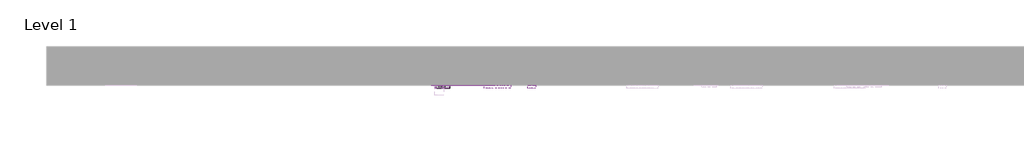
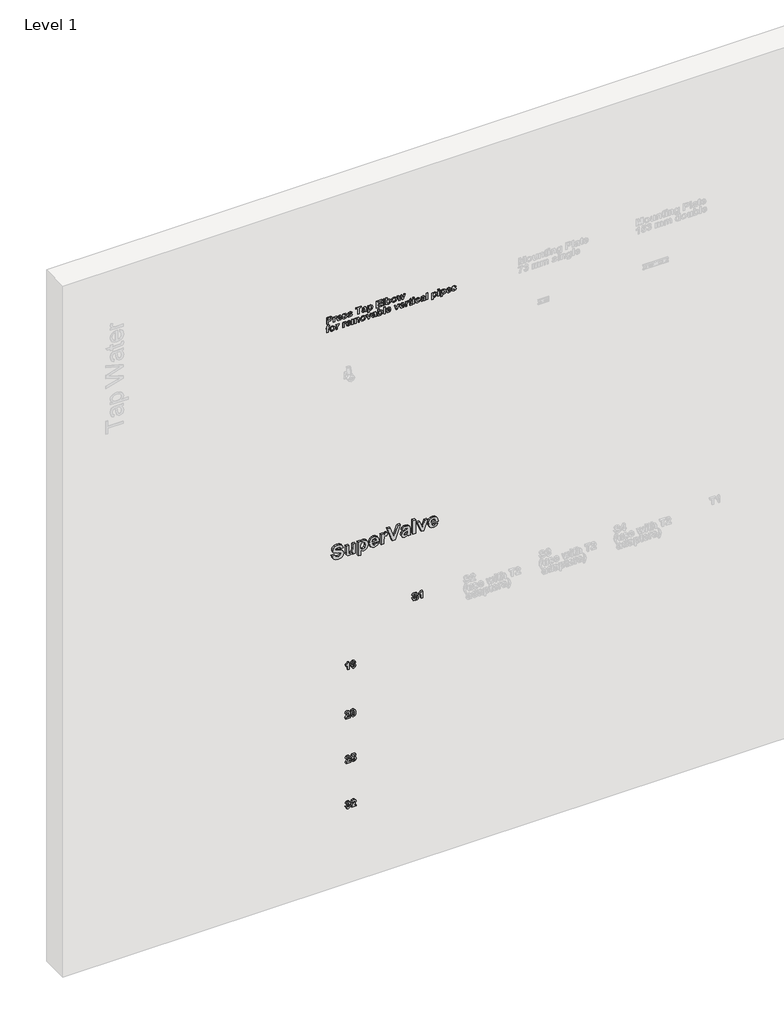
# One storey, part 12 of 58: 7 proxies.
"""IFC4 building model written with IfcOpenShell, lengths in millimetres."""

import ifcopenshell
import ifcopenshell.guid

model = None  # the IFC model being written
_history = None  # IfcOwnerHistory: only IFC2X3 demands one
_inside = {}  # id of a spatial element -> (the spatial element, [elements in it])
_under = {}  # id of a project, library or spatial element -> (it, [spatial elements below it])
_declared = {}  # id of a project -> (the project, [libraries it declares])
_typed = {}  # id of a type object -> (the type object, [elements of that type])
_made_of = {}  # id of a material, layer set ... -> (it, [elements and type objects made of it])


def new_model(schema):
    """Start an empty IFC model of exactly this schema.

    Asked for "IFC4X3", IfcOpenShell would pick the latest addendum, in which some entities
    have other attributes; the version numbers below select the first issue.
    IFC2X3 requires an IfcOwnerHistory on every rooted entity: one is made here for all.
    """
    global model, _history
    if schema == "IFC4X3":
        model = ifcopenshell.file(schema_version=(4, 3, 0, 0))
    else:
        model = ifcopenshell.file(schema=schema)
    _inside.clear()
    _under.clear()
    _declared.clear()
    _typed.clear()
    _made_of.clear()
    _history = None
    if model.schema == "IFC2X3":
        org = make("IfcOrganization", Name="unknown")
        user = make(
            "IfcPersonAndOrganization",
            ThePerson=make("IfcPerson", FamilyName="unknown"),
            TheOrganization=org,
        )
        app = make(
            "IfcApplication",
            ApplicationDeveloper=org,
            Version="unknown",
            ApplicationFullName="unknown",
            ApplicationIdentifier="unknown",
        )
        _history = make(
            "IfcOwnerHistory",
            OwningUser=user,
            OwningApplication=app,
            ChangeAction="ADDED",
            CreationDate=0,
        )
    return model


def make(cls, **values):
    """One entity of the class cls with the attributes given. An attribute that is None is left unset."""
    return model.create_entity(
        cls, **{name: value for name, value in values.items() if value is not None}
    )


def rooted(cls, **values):
    """An entity with a GlobalId (a new one), such as an element, a storey or a relation."""
    return make(cls, GlobalId=ifcopenshell.guid.new(), OwnerHistory=_history, **values)


def si_unit(unit_type, name, prefix=None):
    """IfcSIUnit, for example si_unit("LENGTHUNIT", "METRE", prefix="MILLI")."""
    return make("IfcSIUnit", UnitType=unit_type, Prefix=prefix, Name=name)


def assignment(units):
    """IfcUnitAssignment: the units of a project."""
    return None if units is None else make("IfcUnitAssignment", Units=units)


def point(xyz):
    """IfcCartesianPoint."""
    return None if xyz is None else make("IfcCartesianPoint", Coordinates=xyz)


def direction(xyz):
    """IfcDirection."""
    return None if xyz is None else make("IfcDirection", DirectionRatios=xyz)


def frame(location, z_axis=None, x_axis=None):
    """IfcAxis2Placement3D, a coordinate frame: its origin and axes. An axis left out is left unset."""
    return make(
        "IfcAxis2Placement3D",
        Location=point(location),
        Axis=direction(z_axis),
        RefDirection=direction(x_axis),
    )


def origin():
    """The frame at (0, 0, 0) with its axes left unset."""
    return frame((0.0, 0.0, 0.0))


def place(relative_to, where):
    """IfcLocalPlacement: puts the frame where relative to a parent placement (None: the world)."""
    return make(
        "IfcLocalPlacement", PlacementRelTo=relative_to, RelativePlacement=where
    )


def context(
    kind, dimensions, precision=None, world=None, true_north=None, identifier=None
):
    """IfcGeometricRepresentationContext, for example the 3D "Model" context."""
    return make(
        "IfcGeometricRepresentationContext",
        ContextIdentifier=identifier,
        ContextType=kind,
        CoordinateSpaceDimension=dimensions,
        Precision=precision,
        WorldCoordinateSystem=world,
        TrueNorth=true_north,
    )


def project(units=None, contexts=None):
    """IfcProject with its units and contexts."""
    return rooted(
        "IfcProject",
        Name="project",
        RepresentationContexts=contexts,
        UnitsInContext=assignment(units),
    )


def spatial(cls, under=None, at=None, **own):
    """A site, building, storey or space (cls), placed at a placement, below another one or the project."""
    s = rooted(cls, ObjectPlacement=at, **own)
    if under is not None:
        _under.setdefault(under.id(), (under, []))[1].append(s)
    return s


def polyline(points):
    """IfcPolyline through the points."""
    return make("IfcPolyline", Points=[point(p) for p in points])


def outline(outer, holes=None, kind="AREA"):
    """IfcArbitraryClosedProfileDef: a profile drawn as a closed curve; with holes, ...WithVoids."""
    if holes is None:
        return make("IfcArbitraryClosedProfileDef", ProfileType=kind, OuterCurve=outer)
    return make(
        "IfcArbitraryProfileDefWithVoids",
        ProfileType=kind,
        OuterCurve=outer,
        InnerCurves=holes,
    )


def extrude(swept, where, along, depth):
    """IfcExtrudedAreaSolid: the profile swept, set in the frame where, extruded along a direction by depth."""
    return make(
        "IfcExtrudedAreaSolid",
        SweptArea=swept,
        Position=where,
        ExtrudedDirection=direction(along),
        Depth=depth,
    )


def shape(context_of_items, identifier, shape_type, items):
    """IfcShapeRepresentation: the items that make up one representation, for example the "Body"."""
    return make(
        "IfcShapeRepresentation",
        ContextOfItems=context_of_items,
        RepresentationIdentifier=identifier,
        RepresentationType=shape_type,
        Items=items,
    )


def made_of(thing, what):
    """Note that an element or type object is made of a material, layer set ...; save() writes the relation."""
    if what is not None:
        _made_of.setdefault(what.id(), (what, []))[1].append(thing)
    return thing


def element(
    cls,
    number,
    at=None,
    inside=None,
    cuts=None,
    type_object=None,
    material=None,
    context=None,
    identifier="Body",
    shape_type=None,
    held_by="IfcProductDefinitionShape",
    body=None,
    shapes=None,
    **own,
):
    """One element of the class cls, such as IfcWall. Its Tag is "e" and its number.

    at: its placement. inside: the storey or other place that contains it. cuts: it is an
    opening in that element (IfcRelVoidsElement). A single representation is given by context,
    identifier, shape_type and body (its items); several are given by shapes. held_by: the class
    of the entity that holds the representations. save() writes the other relations.
    """
    e = rooted(cls, Tag="e%d" % number, ObjectPlacement=at, **own)
    if body is not None:
        shapes = [shape(context, identifier, shape_type, body)]
    if shapes is not None:
        e.Representation = make(held_by, Representations=shapes)
    if inside is not None:
        _inside.setdefault(inside.id(), (inside, []))[1].append(e)
    if cuts is not None:
        rooted(
            "IfcRelVoidsElement", RelatingBuildingElement=cuts, RelatedOpeningElement=e
        )
    if type_object is not None:
        _typed.setdefault(type_object.id(), (type_object, []))[1].append(e)
    return made_of(e, material)


def aggregate(whole, parts):
    """IfcRelAggregates: a whole, such as a stair, and the parts it consists of."""
    return rooted("IfcRelAggregates", RelatingObject=whole, RelatedObjects=parts)


def save(model, path):
    """Write the relations noted so far, then the file.

    IfcRelAggregates (storeys below a building ...), IfcRelContainedInSpatialStructure (elements
    in a storey), IfcRelDefinesByType, IfcRelAssociatesMaterial and IfcRelDeclares: one each for
    every whole, place, type object, material and project.
    """
    for whole, parts in _under.values():
        aggregate(whole, parts)
    for where, things in _inside.values():
        rooted(
            "IfcRelContainedInSpatialStructure",
            RelatedElements=things,
            RelatingStructure=where,
        )
    for kind, things in _typed.values():
        rooted("IfcRelDefinesByType", RelatedObjects=things, RelatingType=kind)
    for what, things in _made_of.values():
        rooted("IfcRelAssociatesMaterial", RelatedObjects=things, RelatingMaterial=what)
    for by, libraries in _declared.values():
        rooted("IfcRelDeclares", RelatingContext=by, RelatedDefinitions=libraries)
    model.write(path)


model = new_model("IFC4")

# Units and contexts
model_context = context("Model", 3, world=origin())
ifc_project = project(units=[si_unit("LENGTHUNIT", "METRE", prefix="MILLI")], contexts=[model_context])

# Site, building, storey
site = spatial("IfcSite", under=ifc_project)
building = spatial("IfcBuilding", under=site)
storey = spatial("IfcBuildingStorey", under=building, Name="Level 1", Elevation=27.3876384)

# Proxies
placement = place(None, origin())
element("IfcBuildingElementProxy", 1, Name="100 mm Arial 2", ObjectType="100 mm Arial 2", at=placement, inside=storey, context=model_context, shape_type="SweptSolid", body=[
    extrude(outline(polyline([(2535.90515, 11527.6399588), (2520.5550791, 11531.7202373), (2509.3738509, 11539.9630325), (2502.5512457, 11552.5264946), (2500.277044, 11569.568774), (2503.9714356, 11591.6718639), (2515.2570431, 11605.3866604), (2531.5528529, 11610.2323865), (2547.6715344, 11606.1331299), (2557.9576318, 11594.7969144), (2565.1439827, 11572.4407839), (2571.7862965, 11553.3994844), (2577.8845732, 11550.31239), (2584.1093701, 11553.703133), (2587.7278497, 11568.2276592), (2584.3244546, 11581.7020672), (2573.1527154, 11587.5599554), (2573.1527154, 11606.9934677), (2586.4057129, 11604.213185), (2596.7107883, 11596.8338906), (2603.3341241, 11584.7859986), (2605.5419027, 11567.9999227), (2601.9993353, 11547.9844171), (2591.7005859, 11535.2817827), (2577.1760597, 11530.8788776), (2566.0232986, 11533.2764366), (2556.7050812, 11540.4691135), (2546.7605885, 11564.2043148), (2542.4335956, 11581.0568138), (2538.0686465, 11588.6353776), (2531.9830218, 11590.7988741), (2522.2536136, 11585.5862393), (2518.091097, 11570.074855), (2522.7976508, 11554.664687), (2537.5246094, 11547.0734712), (2535.90515, 11527.6399588)])), frame((0.0, 4529.8703674, 0.0), z_axis=(0.0, 1.0, 0.0), x_axis=(0.0, 0.0, 1.0)), (0.0, 0.0, 1.0), 15.0),
    extrude(outline(polyline([(2501.8965033, 11673.3913017), (2501.8965033, 11692.8248141), (2576.3916341, 11692.8248141), (2576.3916341, 11673.3913017), (2544.7868724, 11673.3913017), (2524.5562824, 11671.9616227), (2517.635624, 11666.6477717), (2514.8521782, 11657.8546134), (2516.9397626, 11650.7568267), (2522.5825663, 11646.9106107), (2541.9528186, 11645.8604925), (2576.3916341, 11645.8604925), (2576.3916341, 11626.4269801), (2529.3007923, 11626.4269801), (2512.815202, 11628.9573854), (2503.5665708, 11637.1558984), (2500.277044, 11649.934445), (2503.6298309, 11663.2317246), (2512.827854, 11673.3913017), (2501.8965033, 11673.3913017)])), frame((0.0, 4529.8703674, 0.0), z_axis=(0.0, 1.0, 0.0), x_axis=(0.0, 0.0, 1.0)), (0.0, 0.0, 1.0), 15.0),
    extrude(outline(polyline([(2576.3916341, 11712.2583265), (2474.3656941, 11712.2583265), (2474.3656941, 11731.6918388), (2510.9300501, 11731.6918388), (2502.680929, 11742.0158923), (2500.277044, 11752.9725471), (2502.8580573, 11764.7294425), (2510.6010974, 11774.59486), (2523.0064092, 11781.2846189), (2539.5742376, 11783.5145385), (2555.7024081, 11781.354205), (2567.8515164, 11774.8732046), (2575.4711992, 11765.2987837), (2578.0110935, 11753.8581889), (2574.5950464, 11740.927818), (2565.6627158, 11731.6918388), (2576.3916341, 11731.6918388), (2576.3916341, 11712.2583265)]), holes=[polyline([(2540.4345754, 11731.6918388), (2557.6286791, 11736.3604365), (2563.4359592, 11748.0888649), (2557.5148109, 11759.4883406), (2539.3971092, 11764.0810261), (2520.5835461, 11759.6148609), (2514.8521782, 11748.4431216), (2516.4147035, 11741.9684472), (2521.1022792, 11736.562869), (2529.0604038, 11732.9095964), (2540.4345754, 11731.6918388)])]), frame((0.0, 4529.8703674, 0.0), z_axis=(0.0, 1.0, 0.0), x_axis=(0.0, 0.0, 1.0)), (0.0, 0.0, 1.0), 15.0),
    extrude(outline(polyline([(2524.5689344, 11840.1956163), (2517.154847, 11835.6155828), (2514.8521782, 11828.1508873), (2519.9635969, 11817.2448406), (2534.2856906, 11812.6648071), (2534.2856906, 11861.248588), (2553.6369648, 11859.2052858), (2567.2568711, 11852.2656494), (2575.3225379, 11841.1634963), (2578.0110935, 11826.6326441), (2575.392124, 11813.4112766), (2567.5352157, 11802.6950104), (2555.0603178, 11795.5972236), (2538.5873796, 11793.2312947), (2524.4360882, 11795.0152304), (2512.9543743, 11800.3670375), (2503.4463765, 11811.8487514), (2500.277044, 11828.2267994), (2505.6541551, 11848.0398726), (2521.3300157, 11859.6291287), (2524.5689344, 11840.1956163)]), holes=[polyline([(2545.6219062, 11841.8150757), (2545.6219062, 11812.9937598), (2558.6534933, 11817.0424082), (2563.4359592, 11827.4676778), (2558.8938818, 11837.4880827), (2545.6219062, 11841.8150757)])]), frame((0.0, 4529.8703674, 0.0), z_axis=(0.0, 1.0, 0.0), x_axis=(0.0, 0.0, 1.0)), (0.0, 0.0, 1.0), 15.0),
    extrude(outline(polyline([(2501.8965033, 11895.2572347), (2524.1893736, 11895.2572347), (2548.3800479, 11896.864042), (2556.3634765, 11901.2669472), (2558.5775811, 11908.1116934), (2555.4145745, 11917.1199361), (2573.911837, 11922.7880439), (2578.0110935, 11910.8698351), (2575.6957727, 11903.0255788), (2566.0169726, 11895.2572347), (2576.3916341, 11895.2572347), (2576.3916341, 11875.8237223), (2501.8965033, 11875.8237223), (2501.8965033, 11895.2572347)])), frame((0.0, 4529.8703674, 0.0), z_axis=(0.0, 1.0, 0.0), x_axis=(0.0, 0.0, 1.0)), (0.0, 0.0, 1.0), 15.0),
    extrude(outline(polyline([(2501.8965033, 11955.556792), (2501.8965033, 11977.2676691), (2603.9224433, 12013.4777684), (2603.9224433, 11993.0573979), (2527.8078532, 11967.3231764), (2603.9224433, 11941.6648671), (2603.9224433, 11921.1685845), (2501.8965033, 11955.556792)])), frame((0.0, 4529.8703674, 0.0), z_axis=(0.0, 1.0, 0.0), x_axis=(0.0, 0.0, 1.0)), (0.0, 0.0, 1.0), 15.0),
    extrude(outline(polyline([(2553.719203, 12041.0085776), (2561.2851147, 12045.1078341), (2563.4359592, 12052.1676647), (2560.930858, 12061.2644716), (2552.5299125, 12063.6810087), (2550.4802843, 12063.6810087), (2545.6472102, 12045.5886111), (2541.0671767, 12030.7857403), (2533.501265, 12022.8023117), (2522.2662656, 12019.9556058), (2513.5711606, 12021.5529241), (2506.5144929, 12026.3448791), (2501.8364062, 12033.9076278), (2500.277044, 12043.8173274), (2502.8454053, 12055.6343199), (2510.5251852, 12066.0342856), (2508.0706921, 12066.717495), (2501.8965033, 12068.5393868), (2501.8965033, 12087.9728991), (2511.8916041, 12084.1393352), (2526.3655222, 12083.114521), (2549.3416019, 12083.114521), (2566.9658745, 12080.6347239), (2574.886043, 12072.0819541), (2578.0110935, 12053.5846917), (2576.7205868, 12041.6000598), (2572.8490668, 12032.9745409), (2566.2953171, 12027.0565556), (2556.9581217, 12023.1945245), (2553.719203, 12041.0085776)]), holes=[polyline([(2535.90515, 12063.6810087), (2532.3878867, 12063.6810087), (2523.8098129, 12062.9724952), (2517.9898808, 12058.6708063), (2514.8521782, 12049.384219), (2517.5470598, 12042.2105201), (2523.9363331, 12039.3891182), (2530.135826, 12042.9063815), (2533.2102684, 12052.7243539), (2535.90515, 12063.6810087)])]), frame((0.0, 4529.8703674, 0.0), z_axis=(0.0, 1.0, 0.0), x_axis=(0.0, 0.0, 1.0)), (0.0, 0.0, 1.0), 15.0),
    extrude(outline(polyline([(12121.9815458, 4529.8703674), (12102.5480334, 4529.8703674), (12102.5480334, 4544.8703674), (12121.9815458, 4544.8703674), (12121.9815458, 4529.8703674)])), frame((0.0, 0.0, 2501.8965033), z_axis=(0.0, 0.0, 1.0), x_axis=(1.0, 0.0, 0.0)), (0.0, 0.0, 1.0), 102.02594),
    extrude(outline(polyline([(2501.8965033, 12161.4052597), (2501.8965033, 12178.5107993), (2576.3916341, 12207.0031625), (2576.3916341, 12187.5696501), (2538.3849471, 12173.7789414), (2532.058934, 12171.7293132), (2525.6823127, 12169.7555971), (2538.3849471, 12165.7575568), (2576.3916341, 12151.9415441), (2576.3916341, 12132.5080317), (2501.8965033, 12161.4052597)])), frame((0.0, 4529.8703674, 0.0), z_axis=(0.0, 1.0, 0.0), x_axis=(0.0, 0.0, 1.0)), (0.0, 0.0, 1.0), 15.0),
    extrude(outline(polyline([(2524.5689344, 12261.2550512), (2517.154847, 12256.6750177), (2514.8521782, 12249.2103222), (2519.9635969, 12238.3042755), (2534.2856906, 12233.724242), (2534.2856906, 12282.3080229), (2553.6369648, 12280.2647207), (2567.2568711, 12273.3250843), (2575.3225379, 12262.2229312), (2578.0110935, 12247.692079), (2575.392124, 12234.4707115), (2567.5352157, 12223.7544453), (2555.0603178, 12216.6566585), (2538.5873796, 12214.2907296), (2524.4360882, 12216.0746653), (2512.9543743, 12221.4264724), (2503.4463765, 12232.9081863), (2500.277044, 12249.2862343), (2505.6541551, 12269.0993075), (2521.3300157, 12280.6885636), (2524.5689344, 12261.2550512)]), holes=[polyline([(2545.6219062, 12262.8745106), (2545.6219062, 12234.0531947), (2558.6534933, 12238.1018431), (2563.4359592, 12248.5271128), (2558.8938818, 12258.5475176), (2545.6219062, 12262.8745106)])]), frame((0.0, 4529.8703674, 0.0), z_axis=(0.0, 1.0, 0.0), x_axis=(0.0, 0.0, 1.0)), (0.0, 0.0, 1.0), 15.0),
])
element("IfcBuildingElementProxy", 2, Name="50mm Arial", ObjectType="50mm Arial", at=placement, inside=storey, context=model_context, shape_type="SweptSolid", body=[
    extrude(outline(polyline([(4282.6501433, 11496.7464081), (4282.6501433, 11506.4631643), (4302.0836557, 11506.4631643), (4302.0836557, 11513.2699544), (4302.8048212, 11524.0874369), (4305.2150322, 11529.4961782), (4310.2125825, 11533.8864313), (4318.0631649, 11535.6134329), (4327.9380714, 11532.6718368), (4332.9039917, 11525.3652916), (4333.6631133, 11513.1813903), (4333.6631133, 11496.7464081), (4282.6501433, 11496.7464081)]), holes=[polyline([(4324.7560868, 11506.4631643), (4324.7560868, 11511.7896674), (4324.4271341, 11519.7224879), (4322.2762896, 11524.144371), (4317.9113405, 11525.8966767), (4314.1347107, 11524.6504521), (4311.7498037, 11521.2091009), (4310.9906822, 11512.4981808), (4310.9906822, 11506.4631643), (4324.7560868, 11506.4631643)])]), frame((0.0, 4542.8703674, 0.0), z_axis=(0.0, 1.0, 0.0), x_axis=(0.0, 0.0, 1.0)), (0.0, 0.0, 1.0), 2.0),
    extrude(outline(polyline([(4282.6501433, 11553.4274859), (4293.7965784, 11553.4274859), (4305.8919156, 11554.2308896), (4309.8836299, 11556.4323421), (4310.9906822, 11559.8547152), (4309.4091789, 11564.3588366), (4318.6578101, 11567.1928905), (4320.7074384, 11561.2337861), (4319.5497779, 11557.311658), (4314.7103779, 11553.4274859), (4319.8977087, 11553.4274859), (4319.8977087, 11543.7107297), (4282.6501433, 11543.7107297), (4282.6501433, 11553.4274859)])), frame((0.0, 4542.8703674, 0.0), z_axis=(0.0, 1.0, 0.0), x_axis=(0.0, 0.0, 1.0)), (0.0, 0.0, 1.0), 2.0),
    extrude(outline(polyline([(4293.9863588, 11592.2945106), (4290.2793151, 11590.0044939), (4289.1279807, 11586.2721461), (4291.68369, 11580.8191228), (4298.8447369, 11578.529106), (4298.8447369, 11602.8209965), (4315.3303272, 11598.3295272), (4320.7074384, 11585.5130246), (4315.4694995, 11573.5442077), (4300.9955814, 11568.8123499), (4288.1790788, 11572.3802213), (4283.4250799, 11578.1210782), (4281.8404136, 11586.3101022), (4284.5289692, 11596.2166388), (4292.3668995, 11602.0112668), (4293.9863588, 11592.2945106)]), holes=[polyline([(4304.5128447, 11593.1042403), (4304.5128447, 11578.6935824), (4311.0286382, 11580.7179066), (4313.4198712, 11585.9305414), (4311.1488325, 11590.9407438), (4304.5128447, 11593.1042403)])]), frame((0.0, 4542.8703674, 0.0), z_axis=(0.0, 1.0, 0.0), x_axis=(0.0, 0.0, 1.0)), (0.0, 0.0, 1.0), 2.0),
    extrude(outline(polyline([(4293.1766291, 11606.0599152), (4284.8895519, 11611.734349), (4281.8404136, 11623.5070595), (4285.5031752, 11635.8870672), (4294.2647034, 11640.0685619), (4301.5649226, 11637.1838999), (4305.9045676, 11626.9167806), (4308.6247532, 11618.3197287), (4310.3833849, 11617.3961308), (4312.357101, 11618.3197287), (4313.4198712, 11622.9377183), (4312.1673206, 11626.8598465), (4308.5614931, 11628.7323464), (4310.1809525, 11638.4491025), (4318.0505128, 11633.5527684), (4320.7074384, 11622.6846778), (4317.4179115, 11611.3358102), (4309.3079627, 11607.6793746), (4300.9449733, 11611.9431075), (4296.1878114, 11626.5055897), (4294.9099567, 11629.6812483), (4293.088065, 11630.3518057), (4290.5070516, 11629.0866031), (4289.1279807, 11623.5070595), (4290.5703117, 11618.2627946), (4294.7960885, 11615.7766714), (4293.1766291, 11606.0599152)])), frame((0.0, 4542.8703674, 0.0), z_axis=(0.0, 1.0, 0.0), x_axis=(0.0, 0.0, 1.0)), (0.0, 0.0, 1.0), 2.0),
    extrude(outline(polyline([(4293.1766291, 11644.92694), (4284.8895519, 11650.6013738), (4281.8404136, 11662.3740843), (4285.5031752, 11674.754092), (4294.2647034, 11678.9355867), (4301.5649226, 11676.0509247), (4305.9045676, 11665.7838053), (4308.6247532, 11657.1867535), (4310.3833849, 11656.2631556), (4312.357101, 11657.1867535), (4313.4198712, 11661.8047431), (4312.1673206, 11665.7268712), (4308.5614931, 11667.5993711), (4310.1809525, 11677.3161273), (4318.0505128, 11672.4197931), (4320.7074384, 11661.5517026), (4317.4179115, 11650.202835), (4309.3079627, 11646.5463994), (4300.9449733, 11650.8101322), (4296.1878114, 11665.3726145), (4294.9099567, 11668.5482731), (4293.088065, 11669.2188305), (4290.5070516, 11667.9536279), (4289.1279807, 11662.3740843), (4290.5703117, 11657.1298194), (4294.7960885, 11654.6436962), (4293.1766291, 11644.92694)])), frame((0.0, 4542.8703674, 0.0), z_axis=(0.0, 1.0, 0.0), x_axis=(0.0, 0.0, 1.0)), (0.0, 0.0, 1.0), 2.0),
    extrude(outline(polyline([(4282.6501433, 11718.6123411), (4282.6501433, 11728.3290973), (4324.7560868, 11728.3290973), (4324.7560868, 11742.9042316), (4333.6631133, 11742.9042316), (4333.6631133, 11704.0372068), (4324.7560868, 11704.0372068), (4324.7560868, 11718.6123411), (4282.6501433, 11718.6123411)])), frame((0.0, 4542.8703674, 0.0), z_axis=(0.0, 1.0, 0.0), x_axis=(0.0, 0.0, 1.0)), (0.0, 0.0, 1.0), 2.0),
    extrude(outline(polyline([(4308.5614931, 11757.4793659), (4312.344449, 11759.5289941), (4313.4198712, 11763.0589095), (4312.1673206, 11767.6073129), (4306.9420338, 11768.8155814), (4304.5254967, 11759.7693826), (4302.23548, 11752.3679473), (4298.4525241, 11748.376233), (4292.8350244, 11746.95288), (4284.9591381, 11750.1475166), (4281.8404136, 11758.8837408), (4283.1245943, 11764.7922371), (4285.7372377, 11770.3338246), (4282.6501433, 11771.2447705), (4282.6501433, 11780.9615267), (4287.6476937, 11779.0447447), (4294.8846527, 11778.5323376), (4306.3726926, 11778.5323376), (4315.1848289, 11777.292439), (4319.1449131, 11773.0160542), (4320.7074384, 11763.7674229), (4318.126425, 11753.4623475), (4310.1809525, 11748.5723394), (4308.5614931, 11757.4793659)]), holes=[polyline([(4299.6544666, 11768.8155814), (4297.895835, 11768.8155814), (4293.606798, 11768.4613247), (4290.696832, 11766.3104802), (4289.1279807, 11761.6671866), (4290.4754215, 11758.0803371), (4293.6700582, 11756.6696362), (4296.7698046, 11758.4282678), (4298.3070258, 11763.337254), (4299.6544666, 11768.8155814)])]), frame((0.0, 4542.8703674, 0.0), z_axis=(0.0, 1.0, 0.0), x_axis=(0.0, 0.0, 1.0)), (0.0, 0.0, 1.0), 2.0),
    extrude(outline(polyline([(4319.8977087, 11788.2490938), (4268.8847387, 11788.2490938), (4268.8847387, 11797.96585), (4287.1669167, 11797.96585), (4283.0423561, 11803.1278767), (4281.8404136, 11808.6062041), (4287.0024403, 11819.4173606), (4301.4890104, 11823.8771998), (4315.6276498, 11819.5565329), (4320.7074384, 11809.049025), (4318.9994148, 11802.5838396), (4314.5332495, 11797.96585), (4319.8977087, 11797.96585), (4319.8977087, 11788.2490938)]), holes=[polyline([(4301.9191793, 11797.96585), (4310.5162312, 11800.3001489), (4313.4198712, 11806.164363), (4310.4592971, 11811.8641009), (4301.4004462, 11814.1604437), (4291.9936647, 11811.927361), (4289.1279807, 11806.3414914), (4292.2530312, 11800.4013651), (4301.9191793, 11797.96585)])]), frame((0.0, 4542.8703674, 0.0), z_axis=(0.0, 1.0, 0.0), x_axis=(0.0, 0.0, 1.0)), (0.0, 0.0, 1.0), 2.0),
    extrude(outline(polyline([(4282.6501433, 11850.5982794), (4282.6501433, 11889.4653041), (4291.5571698, 11889.4653041), (4291.5571698, 11860.3150356), (4304.5128447, 11860.3150356), (4304.5128447, 11887.0361151), (4313.4198712, 11887.0361151), (4313.4198712, 11860.3150356), (4324.7560868, 11860.3150356), (4324.7560868, 11888.6555744), (4333.6631133, 11888.6555744), (4333.6631133, 11850.5982794), (4282.6501433, 11850.5982794)])), frame((0.0, 4542.8703674, 0.0), z_axis=(0.0, 1.0, 0.0), x_axis=(0.0, 0.0, 1.0)), (0.0, 0.0, 1.0), 2.0),
    extrude(outline(polyline([(11907.2793571, 4542.8703674), (11897.562601, 4542.8703674), (11897.562601, 4544.8703674), (11907.2793571, 4544.8703674), (11907.2793571, 4542.8703674)])), frame((0.0, 0.0, 4282.6501433), z_axis=(0.0, 0.0, 1.0), x_axis=(1.0, 0.0, 0.0)), (0.0, 0.0, 1.0), 51.01297),
    extrude(outline(polyline([(4282.6501433, 11916.9961133), (4282.6501433, 11926.7128695), (4288.0146024, 11926.7128695), (4283.3966128, 11931.8053101), (4281.8404136, 11937.7960446), (4286.9897883, 11948.2972264), (4301.6534868, 11952.6242194), (4315.7858001, 11948.2719223), (4320.7074384, 11937.2646594), (4315.6086718, 11926.7128695), (4333.6631133, 11926.7128695), (4333.6631133, 11916.9961133), (4282.6501433, 11916.9961133)]), holes=[polyline([(4301.9824394, 11926.7128695), (4310.5858173, 11929.0218643), (4313.4198712, 11934.8101663), (4310.5162312, 11940.6364245), (4301.0335375, 11942.9074632), (4291.9999907, 11940.6490765), (4289.1279807, 11935.1897271), (4293.1766291, 11928.5094573), (4301.9824394, 11926.7128695)])]), frame((0.0, 4542.8703674, 0.0), z_axis=(0.0, 1.0, 0.0), x_axis=(0.0, 0.0, 1.0)), (0.0, 0.0, 1.0), 2.0),
    extrude(outline(polyline([(4301.8053111, 11957.4825975), (4290.9245685, 11959.8801564), (4284.1494084, 11966.876727), (4281.8404136, 11976.5492011), (4287.3883271, 11990.1374773), (4301.3751422, 11995.5398925), (4315.229111, 11990.1944114), (4320.7074384, 11976.4732889), (4318.2909013, 11966.6679685), (4311.2880048, 11959.8801564), (4301.8053111, 11957.4825975)]), holes=[polyline([(4301.273926, 11967.1993536), (4310.2884947, 11969.8879092), (4313.4198712, 11976.523897), (4310.2884947, 11983.1472328), (4301.3498381, 11985.8231363), (4292.2593572, 11983.1472328), (4289.1279807, 11976.523897), (4292.2593572, 11969.8879092), (4301.273926, 11967.1993536)])]), frame((0.0, 4542.8703674, 0.0), z_axis=(0.0, 1.0, 0.0), x_axis=(0.0, 0.0, 1.0)), (0.0, 0.0, 1.0), 2.0),
    extrude(outline(polyline([(4282.6501433, 12010.5958038), (4282.6501433, 12020.2746039), (4306.600429, 12026.7144853), (4282.6501433, 12033.318843), (4282.6501433, 12042.8584709), (4319.8977087, 12054.6501594), (4319.8977087, 12045.0725755), (4295.49195, 12038.0507009), (4319.8977087, 12031.6614276), (4319.8977087, 12021.9193673), (4295.49195, 12015.3782698), (4319.8977087, 12008.3816992), (4319.8977087, 11998.7788113), (4282.6501433, 12010.5958038)])), frame((0.0, 4542.8703674, 0.0), z_axis=(0.0, 1.0, 0.0), x_axis=(0.0, 0.0, 1.0)), (0.0, 0.0, 1.0), 2.0),
    extrude(outline(polyline([(4256.9420338, 11492.6977597), (4249.6544666, 11492.6977597), (4249.6544666, 11497.5561378), (4219.6944684, 11497.5561378), (4219.6944684, 11507.272894), (4249.6544666, 11507.272894), (4249.6544666, 11514.5604611), (4256.9420338, 11514.5604611), (4256.9420338, 11507.272894), (4259.5103951, 11507.272894), (4263.2553949, 11508.2028179), (4264.2296009, 11511.2582823), (4263.6855638, 11515.7750556), (4270.3025735, 11516.9896502), (4271.517168, 11508.8670493), (4270.1064671, 11502.1741274), (4266.4563575, 11498.5429958), (4259.6622194, 11497.5561378), (4256.9420338, 11497.5561378), (4256.9420338, 11492.6977597)])), frame((0.0, 4542.8703674, 0.0), z_axis=(0.0, 1.0, 0.0), x_axis=(0.0, 0.0, 1.0)), (0.0, 0.0, 1.0), 2.0),
    extrude(outline(polyline([(4238.8496362, 11517.7993799), (4227.9688935, 11520.1969388), (4221.1937335, 11527.1935094), (4218.8847387, 11536.8659835), (4224.4326522, 11550.4542597), (4238.4194673, 11555.8566749), (4252.2734361, 11550.5111938), (4257.7517634, 11536.7900713), (4255.3352264, 11526.9847509), (4248.3323299, 11520.1969388), (4238.8496362, 11517.7993799)]), holes=[polyline([(4238.3182511, 11527.516136), (4247.3328198, 11530.2046916), (4250.4641963, 11536.8406794), (4247.3328198, 11543.4640152), (4238.3941632, 11546.1399187), (4229.3036823, 11543.4640152), (4226.1723058, 11536.8406794), (4229.3036823, 11530.2046916), (4238.3182511, 11527.516136)])]), frame((0.0, 4542.8703674, 0.0), z_axis=(0.0, 1.0, 0.0), x_axis=(0.0, 0.0, 1.0)), (0.0, 0.0, 1.0), 2.0),
    extrude(outline(polyline([(4219.6944684, 11572.8609983), (4230.8409035, 11572.8609983), (4242.9362406, 11573.6644019), (4246.9279549, 11575.8658545), (4248.0350072, 11579.2882276), (4246.453504, 11583.792349), (4255.7021352, 11586.6264029), (4257.7517634, 11580.6672985), (4256.594103, 11576.7451703), (4251.754703, 11572.8609983), (4256.9420338, 11572.8609983), (4256.9420338, 11563.1442421), (4219.6944684, 11563.1442421), (4219.6944684, 11572.8609983)])), frame((0.0, 4542.8703674, 0.0), z_axis=(0.0, 1.0, 0.0), x_axis=(0.0, 0.0, 1.0)), (0.0, 0.0, 1.0), 2.0),
    extrude(outline(polyline([(4219.6944684, 11619.8253199), (4230.8409035, 11619.8253199), (4242.9362406, 11620.6287235), (4246.9279549, 11622.8301761), (4248.0350072, 11626.2525492), (4246.453504, 11630.7566706), (4255.7021352, 11633.5907245), (4257.7517634, 11627.6316201), (4256.594103, 11623.7094919), (4251.754703, 11619.8253199), (4256.9420338, 11619.8253199), (4256.9420338, 11610.1085637), (4219.6944684, 11610.1085637), (4219.6944684, 11619.8253199)])), frame((0.0, 4542.8703674, 0.0), z_axis=(0.0, 1.0, 0.0), x_axis=(0.0, 0.0, 1.0)), (0.0, 0.0, 1.0), 2.0),
    extrude(outline(polyline([(4231.0306839, 11658.6923446), (4227.3236402, 11656.4023279), (4226.1723058, 11652.6699801), (4228.7280151, 11647.2169568), (4235.889062, 11644.92694), (4235.889062, 11669.2188305), (4252.3746523, 11664.7273612), (4257.7517634, 11651.9108585), (4252.5138245, 11639.9420417), (4238.0399065, 11635.2101838), (4225.2234038, 11638.7780552), (4220.469405, 11644.5189122), (4218.8847387, 11652.7079362), (4221.5732943, 11662.6144728), (4229.4112245, 11668.4091008), (4231.0306839, 11658.6923446)]), holes=[polyline([(4241.5571698, 11659.5020743), (4241.5571698, 11645.0914164), (4248.0729633, 11647.1157406), (4250.4641963, 11652.3283754), (4248.1931576, 11657.3385778), (4241.5571698, 11659.5020743)])]), frame((0.0, 4542.8703674, 0.0), z_axis=(0.0, 1.0, 0.0), x_axis=(0.0, 0.0, 1.0)), (0.0, 0.0, 1.0), 2.0),
    extrude(outline(polyline([(4256.9420338, 11675.6966679), (4219.6944684, 11675.6966679), (4219.6944684, 11685.4134241), (4237.9260382, 11685.4134241), (4245.6627523, 11686.1725457), (4249.2306237, 11688.6776469), (4250.4641963, 11692.6124271), (4249.6860967, 11695.4907631), (4247.3201678, 11697.0532883), (4240.2540111, 11697.5593694), (4219.6944684, 11697.5593694), (4219.6944684, 11707.2761256), (4237.7109538, 11707.2761256), (4245.4666459, 11708.0542252), (4249.1926676, 11710.5972825), (4250.4641963, 11714.3612603), (4248.3386559, 11718.4352127), (4241.1396529, 11719.4220708), (4219.6944684, 11719.4220708), (4219.6944684, 11729.138827), (4243.4929298, 11729.138827), (4251.1980138, 11728.1519689), (4256.088022, 11724.0021043), (4257.7517634, 11717.2332703), (4256.3284105, 11711.3057959), (4252.0203955, 11706.1374432), (4256.3284105, 11702.0951208), (4257.7517634, 11696.2815147), (4251.9571354, 11685.4134241), (4256.9420338, 11685.4134241), (4256.9420338, 11675.6966679)])), frame((0.0, 4542.8703674, 0.0), z_axis=(0.0, 1.0, 0.0), x_axis=(0.0, 0.0, 1.0)), (0.0, 0.0, 1.0), 2.0),
    extrude(outline(polyline([(4238.8496362, 11736.4263941), (4227.9688935, 11738.8239531), (4221.1937335, 11745.8205237), (4218.8847387, 11755.4929977), (4224.4326522, 11769.081274), (4238.4194673, 11774.4836892), (4252.2734361, 11769.1382081), (4257.7517634, 11755.4170856), (4255.3352264, 11745.6117652), (4248.3323299, 11738.8239531), (4238.8496362, 11736.4263941)]), holes=[polyline([(4238.3182511, 11746.1431503), (4247.3328198, 11748.8317059), (4250.4641963, 11755.4676937), (4247.3328198, 11762.0910295), (4238.3941632, 11764.766933), (4229.3036823, 11762.0910295), (4226.1723058, 11755.4676937), (4229.3036823, 11748.8317059), (4238.3182511, 11746.1431503)])]), frame((0.0, 4542.8703674, 0.0), z_axis=(0.0, 1.0, 0.0), x_axis=(0.0, 0.0, 1.0)), (0.0, 0.0, 1.0), 2.0),
    extrude(outline(polyline([(4219.6944684, 11791.7663571), (4219.6944684, 11800.3191269), (4256.9420338, 11814.5653085), (4256.9420338, 11804.8485523), (4237.9386903, 11797.953198), (4234.7756837, 11796.9283838), (4231.5873731, 11795.9415258), (4237.9386903, 11793.9425056), (4256.9420338, 11787.0344993), (4256.9420338, 11777.3177431), (4219.6944684, 11791.7663571)])), frame((0.0, 4542.8703674, 0.0), z_axis=(0.0, 1.0, 0.0), x_axis=(0.0, 0.0, 1.0)), (0.0, 0.0, 1.0), 2.0),
    extrude(outline(polyline([(4245.6058182, 11828.7355779), (4249.3887741, 11830.7852062), (4250.4641963, 11834.3151215), (4249.2116457, 11838.863525), (4243.9863588, 11840.0717935), (4241.5698218, 11831.0255947), (4239.2798051, 11823.6241593), (4235.4968492, 11819.632445), (4229.8793495, 11818.2090921), (4222.0034632, 11821.4037287), (4218.8847387, 11830.1399529), (4220.1689193, 11836.0484491), (4222.7815628, 11841.5900366), (4219.6944684, 11842.5009825), (4219.6944684, 11852.2177387), (4224.6920187, 11850.3009567), (4231.9289778, 11849.7885497), (4243.4170176, 11849.7885497), (4252.229154, 11848.5486511), (4256.1892382, 11844.2722662), (4257.7517634, 11835.023635), (4255.1707501, 11824.7185596), (4247.2252776, 11819.8285514), (4245.6058182, 11828.7355779)]), holes=[polyline([(4236.6987917, 11840.0717935), (4234.94016, 11840.0717935), (4230.6511231, 11839.7175368), (4227.7411571, 11837.5666923), (4226.1723058, 11832.9233986), (4227.5197466, 11829.3365492), (4230.7143833, 11827.9258483), (4233.8141297, 11829.6844799), (4235.3513509, 11834.5934661), (4236.6987917, 11840.0717935)])]), frame((0.0, 4542.8703674, 0.0), z_axis=(0.0, 1.0, 0.0), x_axis=(0.0, 0.0, 1.0)), (0.0, 0.0, 1.0), 2.0),
    extrude(outline(polyline([(4219.6944684, 11859.5053059), (4219.6944684, 11869.2220621), (4225.0589275, 11869.2220621), (4220.4409379, 11874.3145026), (4218.8847387, 11880.3052371), (4224.0341134, 11890.8064189), (4238.6978118, 11895.1334119), (4252.8301252, 11890.7811149), (4257.7517634, 11879.773852), (4252.6529968, 11869.2220621), (4270.7074384, 11869.2220621), (4270.7074384, 11859.5053059), (4219.6944684, 11859.5053059)]), holes=[polyline([(4239.0267645, 11869.2220621), (4247.6301424, 11871.5310569), (4250.4641963, 11877.3193589), (4247.5605563, 11883.145617), (4238.0778626, 11885.4166557), (4229.0443158, 11883.158269), (4226.1723058, 11877.6989197), (4230.2209542, 11871.0186498), (4239.0267645, 11869.2220621)])]), frame((0.0, 4542.8703674, 0.0), z_axis=(0.0, 1.0, 0.0), x_axis=(0.0, 0.0, 1.0)), (0.0, 0.0, 1.0), 2.0),
    extrude(outline(polyline([(11912.1377352, 4542.8703674), (11902.420979, 4542.8703674), (11902.420979, 4544.8703674), (11912.1377352, 4544.8703674), (11912.1377352, 4542.8703674)])), frame((0.0, 0.0, 4219.6944684), z_axis=(0.0, 0.0, 1.0), x_axis=(1.0, 0.0, 0.0)), (0.0, 0.0, 1.0), 51.01297),
    extrude(outline(polyline([(4231.0306839, 11942.9074632), (4227.3236402, 11940.6174464), (4226.1723058, 11936.8850987), (4228.7280151, 11931.4320753), (4235.889062, 11929.1420586), (4235.889062, 11953.433949), (4252.3746523, 11948.9424797), (4257.7517634, 11936.1259771), (4252.5138245, 11924.1571602), (4238.0399065, 11919.4253024), (4225.2234038, 11922.9931738), (4220.469405, 11928.7340307), (4218.8847387, 11936.9230547), (4221.5732943, 11946.8295913), (4229.4112245, 11952.6242194), (4231.0306839, 11942.9074632)]), holes=[polyline([(4241.5571698, 11943.7171929), (4241.5571698, 11929.3065349), (4248.0729633, 11931.3308591), (4250.4641963, 11936.5434939), (4248.1931576, 11941.5536964), (4241.5571698, 11943.7171929)])]), frame((0.0, 4542.8703674, 0.0), z_axis=(0.0, 1.0, 0.0), x_axis=(0.0, 0.0, 1.0)), (0.0, 0.0, 1.0), 2.0),
    extrude(outline(polyline([(4219.6944684, 11990.1501293), (4219.6944684, 11998.7028991), (4256.9420338, 12012.9490807), (4256.9420338, 12003.2323245), (4237.9386903, 11996.3369702), (4234.7756837, 11995.3121561), (4231.5873731, 11994.325298), (4237.9386903, 11992.3262779), (4256.9420338, 11985.4182715), (4256.9420338, 11975.7015153), (4219.6944684, 11990.1501293)])), frame((0.0, 4542.8703674, 0.0), z_axis=(0.0, 1.0, 0.0), x_axis=(0.0, 0.0, 1.0)), (0.0, 0.0, 1.0), 2.0),
    extrude(outline(polyline([(4231.0306839, 12040.0750251), (4227.3236402, 12037.7850083), (4226.1723058, 12034.0526606), (4228.7280151, 12028.5996372), (4235.889062, 12026.3096205), (4235.889062, 12050.6015109), (4252.3746523, 12046.1100416), (4257.7517634, 12033.293539), (4252.5138245, 12021.3247221), (4238.0399065, 12016.5928643), (4225.2234038, 12020.1607357), (4220.469405, 12025.9015926), (4218.8847387, 12034.0906166), (4221.5732943, 12043.9971532), (4229.4112245, 12049.7917813), (4231.0306839, 12040.0750251)]), holes=[polyline([(4241.5571698, 12040.8847548), (4241.5571698, 12026.4740968), (4248.0729633, 12028.498421), (4250.4641963, 12033.7110558), (4248.1931576, 12038.7212583), (4241.5571698, 12040.8847548)])]), frame((0.0, 4542.8703674, 0.0), z_axis=(0.0, 1.0, 0.0), x_axis=(0.0, 0.0, 1.0)), (0.0, 0.0, 1.0), 2.0),
    extrude(outline(polyline([(4219.6944684, 12067.6058343), (4230.8409035, 12067.6058343), (4242.9362406, 12068.4092379), (4246.9279549, 12070.6106905), (4248.0350072, 12074.0330636), (4246.453504, 12078.537185), (4255.7021352, 12081.3712389), (4257.7517634, 12075.4121345), (4256.594103, 12071.4900063), (4251.754703, 12067.6058343), (4256.9420338, 12067.6058343), (4256.9420338, 12057.8890781), (4219.6944684, 12057.8890781), (4219.6944684, 12067.6058343)])), frame((0.0, 4542.8703674, 0.0), z_axis=(0.0, 1.0, 0.0), x_axis=(0.0, 0.0, 1.0)), (0.0, 0.0, 1.0), 2.0),
    extrude(outline(polyline([(4256.9420338, 12103.2339403), (4256.9420338, 12095.9463732), (4269.8977087, 12095.9463732), (4264.2296009, 12086.229617), (4256.9420338, 12086.229617), (4256.9420338, 12081.3712389), (4249.6544666, 12081.3712389), (4249.6544666, 12086.229617), (4233.1309203, 12086.229617), (4226.0584376, 12086.5459176), (4222.1489615, 12087.9692706), (4219.7956846, 12091.1765593), (4218.8847387, 12096.0855455), (4220.2005494, 12104.04367), (4227.1085558, 12103.6388051), (4226.1723058, 12099.0840757), (4226.6973649, 12097.1736197), (4228.0258277, 12096.1677836), (4233.6749574, 12095.9463732), (4249.6544666, 12095.9463732), (4249.6544666, 12103.2339403), (4256.9420338, 12103.2339403)])), frame((0.0, 4542.8703674, 0.0), z_axis=(0.0, 1.0, 0.0), x_axis=(0.0, 0.0, 1.0)), (0.0, 0.0, 1.0), 2.0),
    extrude(outline(polyline([(12118.6188043, 4542.8703674), (12108.9020481, 4542.8703674), (12108.9020481, 4544.8703674), (12118.6188043, 4544.8703674), (12118.6188043, 4542.8703674)])), frame((0.0, 0.0, 4261.8004118), z_axis=(0.0, 0.0, 1.0), x_axis=(1.0, 0.0, 0.0)), (0.0, 0.0, 1.0), 8.9070265),
    extrude(outline(polyline([(12118.6188043, 4542.8703674), (12108.9020481, 4542.8703674), (12108.9020481, 4544.8703674), (12118.6188043, 4544.8703674), (12118.6188043, 4542.8703674)])), frame((0.0, 0.0, 4219.6944684), z_axis=(0.0, 0.0, 1.0), x_axis=(1.0, 0.0, 0.0)), (0.0, 0.0, 1.0), 37.2475654),
    extrude(outline(polyline([(4246.4155479, 12159.1052884), (4254.9493396, 12153.5763529), (4257.7517634, 12143.2143434), (4252.6213668, 12130.5749691), (4238.280295, 12125.9063714), (4224.0341134, 12130.6065992), (4218.8847387, 12143.2143434), (4222.1552875, 12154.3164964), (4231.8404136, 12159.9150181), (4233.459873, 12150.1982619), (4227.8107432, 12147.8007029), (4226.1723058, 12143.4294278), (4229.0443158, 12137.742342), (4238.8749402, 12135.6231276), (4247.7946187, 12137.6601038), (4250.4641963, 12143.1257792), (4249.0408433, 12147.3199259), (4244.7960885, 12149.3885322), (4246.4155479, 12159.1052884)])), frame((0.0, 4542.8703674, 0.0), z_axis=(0.0, 1.0, 0.0), x_axis=(0.0, 0.0, 1.0)), (0.0, 0.0, 1.0), 2.0),
    extrude(outline(polyline([(4245.6058182, 12175.299882), (4249.3887741, 12177.3495103), (4250.4641963, 12180.8794256), (4249.2116457, 12185.4278291), (4243.9863588, 12186.6360976), (4241.5698218, 12177.5898988), (4239.2798051, 12170.1884634), (4235.4968492, 12166.1967491), (4229.8793495, 12164.7733962), (4222.0034632, 12167.9680328), (4218.8847387, 12176.704257), (4220.1689193, 12182.6127532), (4222.7815628, 12188.1543408), (4219.6944684, 12189.0652867), (4219.6944684, 12198.7820428), (4224.6920187, 12196.8652609), (4231.9289778, 12196.3528538), (4243.4170176, 12196.3528538), (4252.229154, 12195.1129552), (4256.1892382, 12190.8365703), (4257.7517634, 12181.5879391), (4255.1707501, 12171.2828637), (4247.2252776, 12166.3928555), (4245.6058182, 12175.299882)]), holes=[polyline([(4236.6987917, 12186.6360976), (4234.94016, 12186.6360976), (4230.6511231, 12186.2818409), (4227.7411571, 12184.1309964), (4226.1723058, 12179.4877028), (4227.5197466, 12175.9008533), (4230.7143833, 12174.4901524), (4233.8141297, 12176.248784), (4235.3513509, 12181.1577702), (4236.6987917, 12186.6360976)])]), frame((0.0, 4542.8703674, 0.0), z_axis=(0.0, 1.0, 0.0), x_axis=(0.0, 0.0, 1.0)), (0.0, 0.0, 1.0), 2.0),
    extrude(outline(polyline([(12215.7863662, 4542.8703674), (12206.06961, 4542.8703674), (12206.06961, 4544.8703674), (12215.7863662, 4544.8703674), (12215.7863662, 4542.8703674)])), frame((0.0, 0.0, 4219.6944684), z_axis=(0.0, 0.0, 1.0), x_axis=(1.0, 0.0, 0.0)), (0.0, 0.0, 1.0), 51.01297),
    extrude(outline(polyline([(4256.9420338, 12244.9366347), (4205.9290638, 12244.9366347), (4205.9290638, 12254.6533909), (4224.2112417, 12254.6533909), (4220.0866812, 12259.8154177), (4218.8847387, 12265.293745), (4224.0467654, 12276.1049015), (4238.5333355, 12280.5647408), (4252.6719749, 12276.2440738), (4257.7517634, 12265.736566), (4256.0437399, 12259.2713805), (4251.5775746, 12254.6533909), (4256.9420338, 12254.6533909), (4256.9420338, 12244.9366347)]), holes=[polyline([(4238.9635044, 12254.6533909), (4247.5605563, 12256.9876898), (4250.4641963, 12262.851904), (4247.5036221, 12268.5516418), (4238.4447713, 12270.8479846), (4229.0379898, 12268.6149019), (4226.1723058, 12263.0290323), (4229.2973563, 12257.088906), (4238.9635044, 12254.6533909)])]), frame((0.0, 4542.8703674, 0.0), z_axis=(0.0, 1.0, 0.0), x_axis=(0.0, 0.0, 1.0)), (0.0, 0.0, 1.0), 2.0),
    extrude(outline(polyline([(12297.5690641, 4542.8703674), (12287.8523079, 4542.8703674), (12287.8523079, 4544.8703674), (12297.5690641, 4544.8703674), (12297.5690641, 4542.8703674)])), frame((0.0, 0.0, 4261.8004118), z_axis=(0.0, 0.0, 1.0), x_axis=(1.0, 0.0, 0.0)), (0.0, 0.0, 1.0), 8.9070265),
    extrude(outline(polyline([(12297.5690641, 4542.8703674), (12287.8523079, 4542.8703674), (12287.8523079, 4544.8703674), (12297.5690641, 4544.8703674), (12297.5690641, 4542.8703674)])), frame((0.0, 0.0, 4219.6944684), z_axis=(0.0, 0.0, 1.0), x_axis=(1.0, 0.0, 0.0)), (0.0, 0.0, 1.0), 37.2475654),
    extrude(outline(polyline([(4256.9420338, 12307.2858203), (4205.9290638, 12307.2858203), (4205.9290638, 12317.0025765), (4224.2112417, 12317.0025765), (4220.0866812, 12322.1646032), (4218.8847387, 12327.6429306), (4224.0467654, 12338.4540871), (4238.5333355, 12342.9139263), (4252.6719749, 12338.5932594), (4257.7517634, 12328.0857515), (4256.0437399, 12321.6205661), (4251.5775746, 12317.0025765), (4256.9420338, 12317.0025765), (4256.9420338, 12307.2858203)]), holes=[polyline([(4238.9635044, 12317.0025765), (4247.5605563, 12319.3368753), (4250.4641963, 12325.2010895), (4247.5036221, 12330.9008274), (4238.4447713, 12333.1971701), (4229.0379898, 12330.9640875), (4226.1723058, 12325.3782179), (4229.2973563, 12319.4380915), (4238.9635044, 12317.0025765)])]), frame((0.0, 4542.8703674, 0.0), z_axis=(0.0, 1.0, 0.0), x_axis=(0.0, 0.0, 1.0)), (0.0, 0.0, 1.0), 2.0),
    extrude(outline(polyline([(4231.0306839, 12371.2544652), (4227.3236402, 12368.9644485), (4226.1723058, 12365.2321007), (4228.7280151, 12359.7790774), (4235.889062, 12357.4890606), (4235.889062, 12381.7809511), (4252.3746523, 12377.2894818), (4257.7517634, 12364.4729791), (4252.5138245, 12352.5041623), (4238.0399065, 12347.7723044), (4225.2234038, 12351.3401758), (4220.469405, 12357.0810328), (4218.8847387, 12365.2700568), (4221.5732943, 12375.1765934), (4229.4112245, 12380.9712214), (4231.0306839, 12371.2544652)]), holes=[polyline([(4241.5571698, 12372.0641949), (4241.5571698, 12357.653537), (4248.0729633, 12359.6778612), (4250.4641963, 12364.890496), (4248.1931576, 12369.9006984), (4241.5571698, 12372.0641949)])]), frame((0.0, 4542.8703674, 0.0), z_axis=(0.0, 1.0, 0.0), x_axis=(0.0, 0.0, 1.0)), (0.0, 0.0, 1.0), 2.0),
    extrude(outline(polyline([(4230.2209542, 12385.0198698), (4221.933877, 12390.6943036), (4218.8847387, 12402.4670141), (4222.5475003, 12414.8470218), (4231.3090285, 12419.0285165), (4238.6092477, 12416.1438545), (4242.9488927, 12405.8767352), (4245.6690783, 12397.2796833), (4247.42771, 12396.3560854), (4249.4014261, 12397.2796833), (4250.4641963, 12401.8976729), (4249.2116457, 12405.819801), (4245.6058182, 12407.6923009), (4247.2252776, 12417.4090571), (4255.0948379, 12412.5127229), (4257.7517634, 12401.6446324), (4254.4622366, 12390.2957648), (4246.3522877, 12386.6393292), (4237.9892984, 12390.903062), (4233.2321365, 12405.4655443), (4231.9542818, 12408.6412029), (4230.13239, 12409.3117603), (4227.5513767, 12408.0465577), (4226.1723058, 12402.4670141), (4227.6146368, 12397.2227492), (4231.8404136, 12394.736626), (4230.2209542, 12385.0198698)])), frame((0.0, 4542.8703674, 0.0), z_axis=(0.0, 1.0, 0.0), x_axis=(0.0, 0.0, 1.0)), (0.0, 0.0, 1.0), 2.0),
])
element("IfcBuildingElementProxy", 3, Name="50mm Arial", ObjectType="50mm Arial", at=placement, inside=storey, context=model_context, shape_type="SweptSolid", body=[
    extrude(outline(polyline([(2014.1339521, 12100.3506239), (2000.8683026, 12106.5121607), (1996.3198991, 12121.3150314), (1998.167095, 12132.3665764), (2003.8098987, 12139.2239746), (2011.9578036, 12141.6468377), (2020.0171444, 12139.5972094), (2025.1601931, 12133.9291016), (2028.7533685, 12122.7510364), (2032.0745254, 12113.2303866), (2035.1236638, 12111.6868394), (2038.2360622, 12113.3822109), (2040.045302, 12120.644474), (2038.3436045, 12127.381678), (2032.7577348, 12130.3106221), (2032.7577348, 12140.0273783), (2044.5367713, 12134.9475898), (2048.9523285, 12120.5306058), (2047.1810448, 12110.522853), (2042.0316701, 12104.1715358), (2034.769407, 12101.9700832), (2024.5339178, 12106.7652012), (2019.5616714, 12118.6328019), (2017.3981749, 12127.0590514), (2015.2157004, 12130.8483332), (2012.1728881, 12131.9300815), (2007.308184, 12129.3237641), (2005.2269256, 12121.568072), (2007.5802025, 12113.8629879), (2014.9436818, 12110.0673801), (2014.1339521, 12100.3506239)])), frame((0.0, 4529.8703674, 0.0), z_axis=(0.0, 1.0, 0.0), x_axis=(0.0, 0.0, 1.0)), (0.0, 0.0, 1.0), 15.0),
    extrude(outline(polyline([(1997.1296288, 12172.4165656), (2048.1425988, 12172.4165656), (2048.1425988, 12164.6735255), (2039.9504118, 12158.663813), (2035.1869239, 12150.5538642), (2025.4701677, 12150.5538642), (2033.5927686, 12162.6998094), (1997.1296288, 12162.6998094), (1997.1296288, 12172.4165656)])), frame((0.0, 4529.8703674, 0.0), z_axis=(0.0, 1.0, 0.0), x_axis=(0.0, 0.0, 1.0)), (0.0, 0.0, 1.0), 15.0),
])
element("IfcBuildingElementProxy", 4, Name="50mm Arial", ObjectType="50mm Arial", at=placement, inside=storey, context=model_context, shape_type="SweptSolid", body=[
    extrude(outline(polyline([(1642.6247648, 11650.3390033), (1693.6377348, 11650.3390033), (1693.6377348, 11642.5959632), (1685.4455478, 11636.5862507), (1680.6820599, 11628.4763019), (1670.9653037, 11628.4763019), (1679.0879046, 11640.6222471), (1642.6247648, 11640.6222471), (1642.6247648, 11650.3390033)])), frame((0.0, 4529.8703674, 0.0), z_axis=(0.0, 1.0, 0.0), x_axis=(0.0, 0.0, 1.0)), (0.0, 0.0, 1.0), 15.0),
    extrude(outline(polyline([(1680.1000667, 11696.4935952), (1690.1710796, 11691.8629536), (1693.6377348, 11682.6902345), (1692.0973506, 11675.5339322), (1687.476198, 11669.8547539), (1679.3662492, 11666.1492917), (1667.3594762, 11664.9141376), (1655.6658409, 11666.0971021), (1647.7867915, 11669.6459954), (1643.3079742, 11675.0294326), (1641.8150351, 11681.7160285), (1646.4393507, 11692.9383758), (1658.7054902, 11697.3033249), (1670.4592227, 11693.033266), (1675.0139521, 11682.7661467), (1670.7502193, 11673.8844242), (1682.0421527, 11676.4527856), (1684.7307083, 11681.4376839), (1683.3453114, 11685.0561635), (1679.0626005, 11686.776839), (1680.1000667, 11696.4935952)]), holes=[polyline([(1658.9205747, 11674.6308938), (1664.2850338, 11676.4970677), (1666.1069256, 11681.0581231), (1664.2027957, 11685.7203948), (1658.1994092, 11687.5865687), (1652.4680413, 11685.8532411), (1650.7220616, 11681.5262481), (1652.8539281, 11676.7311302), (1658.9205747, 11674.6308938)])]), frame((0.0, 4529.8703674, 0.0), z_axis=(0.0, 1.0, 0.0), x_axis=(0.0, 0.0, 1.0)), (0.0, 0.0, 1.0), 15.0),
])
element("IfcBuildingElementProxy", 5, Name="50mm Arial", ObjectType="50mm Arial", at=placement, inside=storey, context=model_context, shape_type="SweptSolid", body=[
    extrude(outline(polyline([(1287.8915471, 11656.8939251), (1287.8915471, 11638.7888755), (1290.5484727, 11640.6107672), (1296.0774081, 11646.1586808), (1302.4540294, 11652.2000233), (1308.8433027, 11655.7678947), (1315.270532, 11656.8939251), (1325.1960466, 11652.7820165), (1329.1877609, 11641.471105), (1325.6262155, 11630.5271023), (1313.8788091, 11625.3144675), (1312.9931673, 11635.0312236), (1318.5916889, 11636.9037235), (1320.2807344, 11641.2560206), (1318.5663849, 11645.6019916), (1313.6510727, 11647.1771689), (1307.8058365, 11645.304669), (1299.6579316, 11637.7893654), (1287.7080928, 11627.6044842), (1278.1747909, 11624.5047378), (1278.1747909, 11656.8939251), (1287.8915471, 11656.8939251)])), frame((0.0, 4529.8703674, 0.0), z_axis=(0.0, 1.0, 0.0), x_axis=(0.0, 0.0, 1.0)), (0.0, 0.0, 1.0), 15.0),
    extrude(outline(polyline([(1329.1877609, 11679.5663562), (1324.0004302, 11668.2680967), (1315.6912119, 11664.5958461), (1303.3649753, 11663.3717625), (1283.0584731, 11667.8316018), (1278.7884142, 11672.99521), (1277.3650613, 11679.5663562), (1282.552392, 11690.8646157), (1290.8805883, 11694.5368663), (1303.2637591, 11695.7609498), (1315.6469298, 11694.5431923), (1323.924518, 11690.8899197), (1329.1877609, 11679.5663562)]), holes=[polyline([(1320.2807344, 11679.5663562), (1319.2116382, 11682.7862969), (1314.9542314, 11685.1205957), (1303.2637591, 11686.0441936), (1291.181074, 11685.0067275), (1287.341184, 11682.8052749), (1286.2720878, 11679.5663562), (1287.328532, 11676.3464155), (1291.5669608, 11674.0121166), (1303.2637591, 11673.0885187), (1315.3717482, 11674.1259849), (1319.2116382, 11676.3274375), (1320.2807344, 11679.5663562)])]), frame((0.0, 4529.8703674, 0.0), z_axis=(0.0, 1.0, 0.0), x_axis=(0.0, 0.0, 1.0)), (0.0, 0.0, 1.0), 15.0),
])
element("IfcBuildingElementProxy", 6, Name="50mm Arial", ObjectType="50mm Arial", at=placement, inside=storey, context=model_context, shape_type="SweptSolid", body=[
    extrude(outline(polyline([(950.5972993, 11659.3258112), (950.5972993, 11641.2207616), (953.2542248, 11643.0426533), (958.7831603, 11648.5905669), (965.1597815, 11654.6319094), (971.5490548, 11658.1997808), (977.9762842, 11659.3258112), (987.9017988, 11655.2139026), (991.8935131, 11643.9029911), (988.3319677, 11632.9589884), (976.5845613, 11627.7463536), (975.6989194, 11637.4631097), (981.2974411, 11639.3356096), (982.9864866, 11643.6879067), (981.272137, 11648.0338777), (976.3568248, 11649.609055), (970.5115886, 11647.7365551), (962.3636837, 11640.2212515), (950.4138449, 11630.0363703), (940.8805431, 11626.9366239), (940.8805431, 11659.3258112), (950.5972993, 11659.3258112)])), frame((0.0, 4529.8703674, 0.0), z_axis=(0.0, 1.0, 0.0), x_axis=(0.0, 0.0, 1.0)), (0.0, 0.0, 1.0), 15.0),
    extrude(outline(polyline([(955.2405929, 11665.8036486), (944.1827219, 11670.9593493), (940.0708134, 11682.0994585), (941.7092508, 11689.7191413), (946.624563, 11695.4726503), (957.5432617, 11699.0025656), (969.4804485, 11694.7641368), (974.0794601, 11684.4400834), (972.0930919, 11678.1773303), (981.3670272, 11680.1383944), (981.3670272, 11696.5733766), (991.0837834, 11696.5733766), (991.0837834, 11672.2814861), (962.3763357, 11666.6133783), (961.1237851, 11675.0396278), (965.1724336, 11682.1500666), (963.2113695, 11687.3057673), (957.3281773, 11689.2858094), (951.0590982, 11687.153943), (948.9778399, 11681.9476342), (950.938904, 11677.1904723), (956.265407, 11674.7106751), (955.2405929, 11665.8036486)])), frame((0.0, 4529.8703674, 0.0), z_axis=(0.0, 1.0, 0.0), x_axis=(0.0, 0.0, 1.0)), (0.0, 0.0, 1.0), 15.0),
])
element("IfcBuildingElementProxy", 7, Name="50mm Arial", ObjectType="50mm Arial", at=placement, inside=storey, context=model_context, shape_type="SweptSolid", body=[
    extrude(outline(polyline([(613.1864582, 11626.9366239), (602.2867375, 11631.9911084), (598.1178949, 11642.9667412), (602.8054706, 11654.6382354), (614.1353601, 11659.3258112), (621.9606384, 11656.6815377), (626.1294811, 11649.621707), (630.8075678, 11655.0778933), (636.8457473, 11656.8966221), (645.347909, 11653.5058791), (649.9405945, 11642.5998324), (648.2831791, 11635.4198075), (643.7347756, 11630.4222571), (636.0107136, 11627.7463536), (634.5557306, 11637.4631097), (639.3824786, 11639.2027634), (641.033568, 11642.6630925), (639.6102151, 11645.9462934), (635.7956291, 11647.1798659), (631.2915078, 11645.5287765), (629.6973525, 11640.7399846), (621.6886198, 11639.8922988), (622.4097853, 11643.7511668), (620.3981131, 11647.9073574), (614.9450898, 11649.609055), (609.1694398, 11647.7492071), (607.0249214, 11643.1565216), (608.8974212, 11638.8421806), (614.3124885, 11636.6533801), (613.1864582, 11626.9366239)])), frame((0.0, 4529.8703674, 0.0), z_axis=(0.0, 1.0, 0.0), x_axis=(0.0, 0.0, 1.0)), (0.0, 0.0, 1.0), 15.0),
    extrude(outline(polyline([(608.6443807, 11698.1928359), (608.6443807, 11680.0877863), (611.3013062, 11681.9096781), (616.8302417, 11687.4575916), (623.206863, 11693.4989342), (629.5961363, 11697.0668056), (636.0233656, 11698.1928359), (645.9488802, 11694.0809274), (649.9405945, 11682.7700159), (646.3790491, 11671.8260131), (634.6316427, 11666.6133783), (633.7460009, 11676.3301345), (639.3445225, 11678.2026344), (641.033568, 11682.5549314), (639.3192185, 11686.9009025), (634.4039062, 11688.4760797), (628.5586701, 11686.6035799), (620.4107652, 11679.0882762), (608.4609263, 11668.9033951), (598.9276245, 11665.8036486), (598.9276245, 11698.1928359), (608.6443807, 11698.1928359)])), frame((0.0, 4529.8703674, 0.0), z_axis=(0.0, 1.0, 0.0), x_axis=(0.0, 0.0, 1.0)), (0.0, 0.0, 1.0), 15.0),
])

save(model, "model.ifc")
